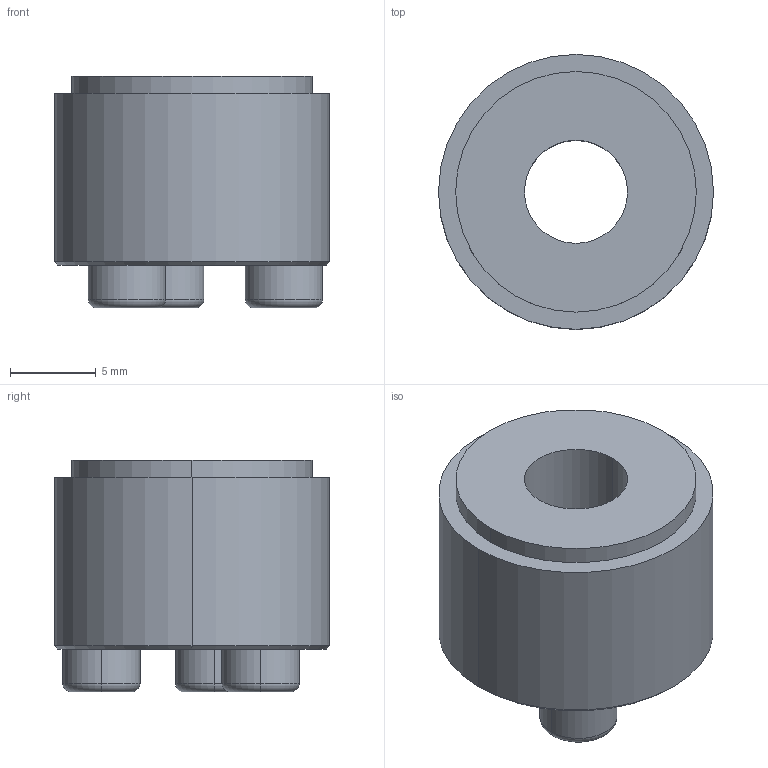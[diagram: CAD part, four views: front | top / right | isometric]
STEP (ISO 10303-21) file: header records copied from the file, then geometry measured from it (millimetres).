
FILE_DESCRIPTION (( 'STEP AP203' ), '1' );
FILE_NAME ('PL-B 6-16.STEP', '2021-10-22T07:43:29', ( '' ), ( '' ), 'SwSTEP 2.0', 'SolidWorks 2018', '' );
FILE_SCHEMA (( 'CONFIG_CONTROL_DESIGN' ));
Length unit declared in the file: millimetre
Products named in the file (1): PL-B 6-16
Bounding box: 16 x 16 x 13.5 mm (x, y, z)
Volume: 1957.8 mm3; surface area: 1210.9 mm2
Topology: 1 solids, 1 shells, 49 faces, 110 edges, 70 vertices
Faces by surface type: plane 27, cylinder 12, torus 6, cone 4
Entity records: 1445 total; most frequent: DIRECTION 250, CARTESIAN_POINT 230, ORIENTED_EDGE 220, EDGE_CURVE 110, AXIS2_PLACEMENT_3D 90, LINE 70, VECTOR 70, VERTEX_POINT 70
